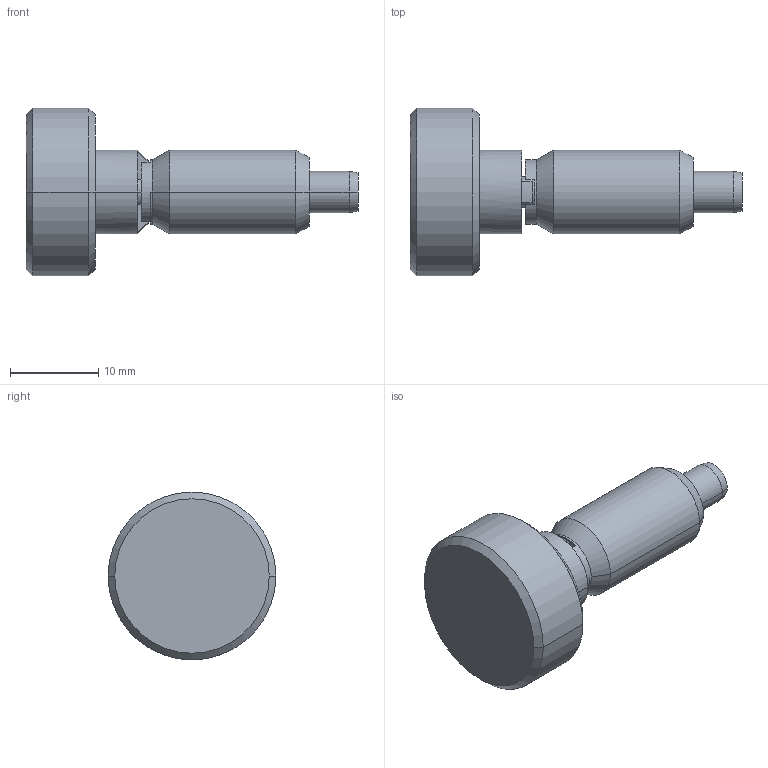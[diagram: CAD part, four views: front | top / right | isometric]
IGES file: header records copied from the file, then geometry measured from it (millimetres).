
Start section:  PTC IGES file: sl375-part.igs
Global section: file name: sl375-part.igs; native system: Pro/ENGINEER by Parametric Technology Corporation; preprocessor: 2002350; author: chant; organization: Unknown; date: 061214.151453; units: inch
Bounding box: 37.67 x 19.05 x 19.05 mm (x, y, z)
Surface area: 2417.8 mm2 (no closed solid volume)
Topology: 0 solids, 0 shells, 54 faces, 347 edges, 431 vertices
Faces by surface type: revolution 32, bspline 22
